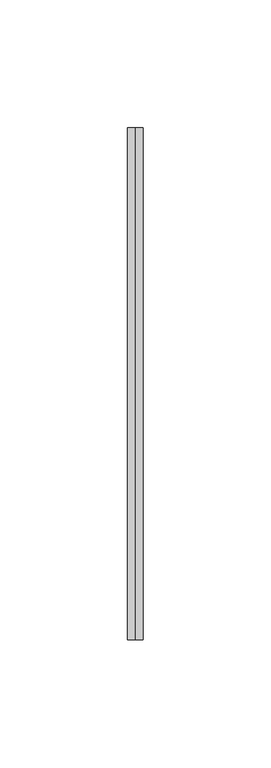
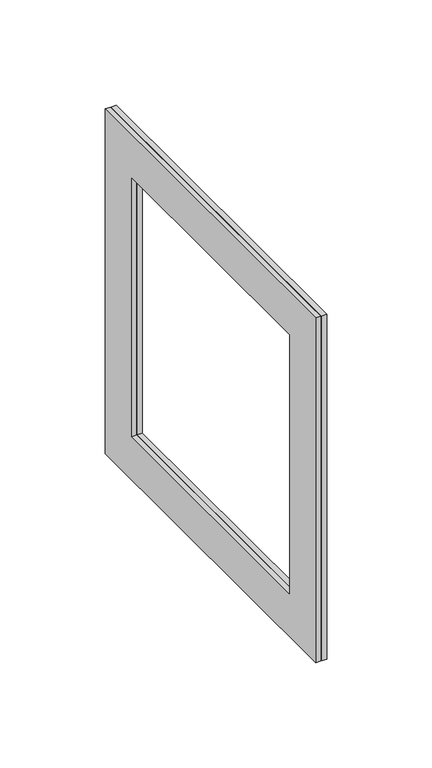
"""IFC4 building model written with IfcOpenShell, lengths in millimetres: duct fitting geometry, BL_ФланецВоздуховдов-Двойной_Прямоугольный_БезКоннекторов : BL_ФланецВоздуховдов-Двойной_Прямоугольный_БезКоннекторов."""

import ifcopenshell
import ifcopenshell.guid

model = None  # the IFC model being written
_history = None  # IfcOwnerHistory: only IFC2X3 demands one
_inside = {}  # id of a spatial element -> (the spatial element, [elements in it])
_under = {}  # id of a project, library or spatial element -> (it, [spatial elements below it])
_declared = {}  # id of a project -> (the project, [libraries it declares])
_typed = {}  # id of a type object -> (the type object, [elements of that type])
_made_of = {}  # id of a material, layer set ... -> (it, [elements and type objects made of it])


def new_model(schema):
    """Start an empty IFC model of exactly this schema.

    Asked for "IFC4X3", IfcOpenShell would pick the latest addendum, in which some entities
    have other attributes; the version numbers below select the first issue.
    IFC2X3 requires an IfcOwnerHistory on every rooted entity: one is made here for all.
    """
    global model, _history
    if schema == "IFC4X3":
        model = ifcopenshell.file(schema_version=(4, 3, 0, 0))
    else:
        model = ifcopenshell.file(schema=schema)
    _inside.clear()
    _under.clear()
    _declared.clear()
    _typed.clear()
    _made_of.clear()
    _history = None
    if model.schema == "IFC2X3":
        org = make("IfcOrganization", Name="unknown")
        user = make(
            "IfcPersonAndOrganization",
            ThePerson=make("IfcPerson", FamilyName="unknown"),
            TheOrganization=org,
        )
        app = make(
            "IfcApplication",
            ApplicationDeveloper=org,
            Version="unknown",
            ApplicationFullName="unknown",
            ApplicationIdentifier="unknown",
        )
        _history = make(
            "IfcOwnerHistory",
            OwningUser=user,
            OwningApplication=app,
            ChangeAction="ADDED",
            CreationDate=0,
        )
    return model


def make(cls, **values):
    """One entity of the class cls with the attributes given. An attribute that is None is left unset."""
    return model.create_entity(
        cls, **{name: value for name, value in values.items() if value is not None}
    )


def rooted(cls, **values):
    """An entity with a GlobalId (a new one), such as an element, a storey or a relation."""
    return make(cls, GlobalId=ifcopenshell.guid.new(), OwnerHistory=_history, **values)


def si_unit(unit_type, name, prefix=None):
    """IfcSIUnit, for example si_unit("LENGTHUNIT", "METRE", prefix="MILLI")."""
    return make("IfcSIUnit", UnitType=unit_type, Prefix=prefix, Name=name)


def assignment(units):
    """IfcUnitAssignment: the units of a project."""
    return None if units is None else make("IfcUnitAssignment", Units=units)


def point(xyz):
    """IfcCartesianPoint."""
    return None if xyz is None else make("IfcCartesianPoint", Coordinates=xyz)


def direction(xyz):
    """IfcDirection."""
    return None if xyz is None else make("IfcDirection", DirectionRatios=xyz)


def frame(location, z_axis=None, x_axis=None):
    """IfcAxis2Placement3D, a coordinate frame: its origin and axes. An axis left out is left unset."""
    return make(
        "IfcAxis2Placement3D",
        Location=point(location),
        Axis=direction(z_axis),
        RefDirection=direction(x_axis),
    )


def origin():
    """The frame at (0, 0, 0) with its axes left unset."""
    return frame((0.0, 0.0, 0.0))


def place(relative_to, where):
    """IfcLocalPlacement: puts the frame where relative to a parent placement (None: the world)."""
    return make(
        "IfcLocalPlacement", PlacementRelTo=relative_to, RelativePlacement=where
    )


def context(
    kind, dimensions, precision=None, world=None, true_north=None, identifier=None
):
    """IfcGeometricRepresentationContext, for example the 3D "Model" context."""
    return make(
        "IfcGeometricRepresentationContext",
        ContextIdentifier=identifier,
        ContextType=kind,
        CoordinateSpaceDimension=dimensions,
        Precision=precision,
        WorldCoordinateSystem=world,
        TrueNorth=true_north,
    )


def project(units=None, contexts=None):
    """IfcProject with its units and contexts."""
    return rooted(
        "IfcProject",
        Name="project",
        RepresentationContexts=contexts,
        UnitsInContext=assignment(units),
    )


def spatial(cls, under=None, at=None, **own):
    """A site, building, storey or space (cls), placed at a placement, below another one or the project."""
    s = rooted(cls, ObjectPlacement=at, **own)
    if under is not None:
        _under.setdefault(under.id(), (under, []))[1].append(s)
    return s


def polyline(points):
    """IfcPolyline through the points."""
    return make("IfcPolyline", Points=[point(p) for p in points])


def outline(outer, holes=None, kind="AREA"):
    """IfcArbitraryClosedProfileDef: a profile drawn as a closed curve; with holes, ...WithVoids."""
    if holes is None:
        return make("IfcArbitraryClosedProfileDef", ProfileType=kind, OuterCurve=outer)
    return make(
        "IfcArbitraryProfileDefWithVoids",
        ProfileType=kind,
        OuterCurve=outer,
        InnerCurves=holes,
    )


def extrude(swept, where, along, depth):
    """IfcExtrudedAreaSolid: the profile swept, set in the frame where, extruded along a direction by depth."""
    return make(
        "IfcExtrudedAreaSolid",
        SweptArea=swept,
        Position=where,
        ExtrudedDirection=direction(along),
        Depth=depth,
    )


def shape(context_of_items, identifier, shape_type, items):
    """IfcShapeRepresentation: the items that make up one representation, for example the "Body"."""
    return make(
        "IfcShapeRepresentation",
        ContextOfItems=context_of_items,
        RepresentationIdentifier=identifier,
        RepresentationType=shape_type,
        Items=items,
    )


def source(mapping_origin, context_of_items, identifier, shape_type, items):
    """IfcRepresentationMap: a shape defined once, which mapped items show again and again."""
    return make(
        "IfcRepresentationMap",
        MappingOrigin=mapping_origin,
        MappedRepresentation=shape(context_of_items, identifier, shape_type, items),
    )


def transform(
    local_origin,
    x_axis=None,
    y_axis=None,
    z_axis=None,
    scale=None,
    scale2=None,
    scale3=None,
    uniform=True,
):
    """IfcCartesianTransformationOperator3D, or its non-uniform kind. x_axis, y_axis, z_axis: its Axis1, 2, 3."""
    if uniform:
        return make(
            "IfcCartesianTransformationOperator3D",
            Axis1=direction(x_axis),
            Axis2=direction(y_axis),
            LocalOrigin=point(local_origin),
            Scale=scale,
            Axis3=direction(z_axis),
        )
    return make(
        "IfcCartesianTransformationOperator3DnonUniform",
        Axis1=direction(x_axis),
        Axis2=direction(y_axis),
        LocalOrigin=point(local_origin),
        Scale=scale,
        Axis3=direction(z_axis),
        Scale2=scale2,
        Scale3=scale3,
    )


def mapped(mapping_source, mapping_target):
    """IfcMappedItem: shows the shape of a source again, moved by a transform."""
    return make(
        "IfcMappedItem", MappingSource=mapping_source, MappingTarget=mapping_target
    )


def made_of(thing, what):
    """Note that an element or type object is made of a material, layer set ...; save() writes the relation."""
    if what is not None:
        _made_of.setdefault(what.id(), (what, []))[1].append(thing)
    return thing


def element(
    cls,
    number,
    at=None,
    inside=None,
    cuts=None,
    type_object=None,
    material=None,
    context=None,
    identifier="Body",
    shape_type=None,
    held_by="IfcProductDefinitionShape",
    body=None,
    shapes=None,
    **own,
):
    """One element of the class cls, such as IfcWall. Its Tag is "e" and its number.

    at: its placement. inside: the storey or other place that contains it. cuts: it is an
    opening in that element (IfcRelVoidsElement). A single representation is given by context,
    identifier, shape_type and body (its items); several are given by shapes. held_by: the class
    of the entity that holds the representations. save() writes the other relations.
    """
    e = rooted(cls, Tag="e%d" % number, ObjectPlacement=at, **own)
    if body is not None:
        shapes = [shape(context, identifier, shape_type, body)]
    if shapes is not None:
        e.Representation = make(held_by, Representations=shapes)
    if inside is not None:
        _inside.setdefault(inside.id(), (inside, []))[1].append(e)
    if cuts is not None:
        rooted(
            "IfcRelVoidsElement", RelatingBuildingElement=cuts, RelatedOpeningElement=e
        )
    if type_object is not None:
        _typed.setdefault(type_object.id(), (type_object, []))[1].append(e)
    return made_of(e, material)


def aggregate(whole, parts):
    """IfcRelAggregates: a whole, such as a stair, and the parts it consists of."""
    return rooted("IfcRelAggregates", RelatingObject=whole, RelatedObjects=parts)


def save(model, path):
    """Write the relations noted so far, then the file.

    IfcRelAggregates (storeys below a building ...), IfcRelContainedInSpatialStructure (elements
    in a storey), IfcRelDefinesByType, IfcRelAssociatesMaterial and IfcRelDeclares: one each for
    every whole, place, type object, material and project.
    """
    for whole, parts in _under.values():
        aggregate(whole, parts)
    for where, things in _inside.values():
        rooted(
            "IfcRelContainedInSpatialStructure",
            RelatedElements=things,
            RelatingStructure=where,
        )
    for kind, things in _typed.values():
        rooted("IfcRelDefinesByType", RelatedObjects=things, RelatingType=kind)
    for what, things in _made_of.values():
        rooted("IfcRelAssociatesMaterial", RelatedObjects=things, RelatingMaterial=what)
    for by, libraries in _declared.values():
        rooted("IfcRelDeclares", RelatingContext=by, RelatedDefinitions=libraries)
    model.write(path)


def duct_fitting_0375d318(model_context):
    return source(origin(), model_context, "Body", "SweptSolid", [
        extrude(outline(polyline([(-145.6742229, 100.0), (54.3257771, 100.0), (54.3257771, -100.0), (-145.6742229, -100.0), (-145.6742229, 100.0)]), holes=[polyline([(-120.6742229, 75.0), (-120.6742229, -75.0), (29.3257771, -75.0), (29.3257771, 75.0), (-120.6742229, 75.0)])]), frame((0.0, 0.0, 0.0), z_axis=(1.0, 0.0, 0.0), x_axis=(0.0, 1.0, 0.0)), (0.0, 0.0, 1.0), 3.0),
        extrude(outline(polyline([(-145.6742229, 100.0), (54.3257771, 100.0), (54.3257771, -100.0), (-145.6742229, -100.0), (-145.6742229, 100.0)]), holes=[polyline([(29.3257771, 75.0), (-120.6742229, 75.0), (-120.6742229, -75.0), (29.3257771, -75.0), (29.3257771, 75.0)])]), frame((-3.0, 0.0, 0.0), z_axis=(1.0, 0.0, 0.0), x_axis=(0.0, 1.0, 0.0)), (0.0, 0.0, 1.0), 3.0),
    ])


if __name__ == "__main__":
    model = new_model("IFC4")
    model_context = context("Model", 3, world=origin())
    ifc_project = project(units=[si_unit("LENGTHUNIT", "METRE", prefix="MILLI")], contexts=[model_context])
    site = spatial("IfcSite", under=ifc_project)
    building = spatial("IfcBuilding", under=site)
    placement = place(None, origin())
    duct_fitting_shape = duct_fitting_0375d318(model_context)
    element("IfcDuctFitting", 1, ObjectType="BL_ФланецВоздуховдов-Двойной_Прямоугольный_БезКоннекторов : BL_ФланецВоздуховдов-Двойной_Прямоугольный_БезКоннекторов", at=placement, inside=building, context=model_context, shape_type="MappedRepresentation", body=[
        mapped(duct_fitting_shape, transform((0.0, 0.0, 0.0), x_axis=(1.0, 0.0, 0.0), y_axis=(0.0, 1.0, 0.0), z_axis=(0.0, 0.0, 1.0))),
    ])
    save(model, "model.ifc")
